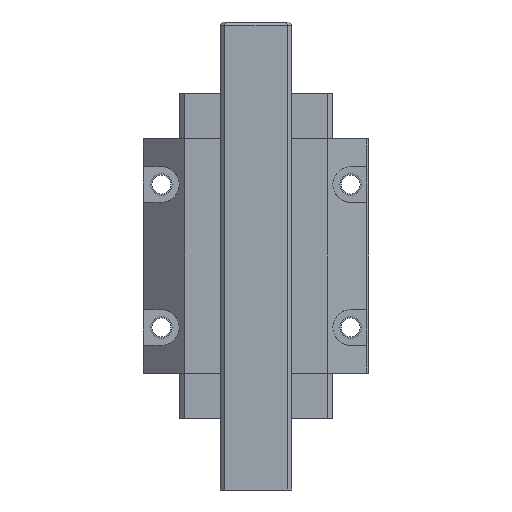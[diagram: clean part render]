
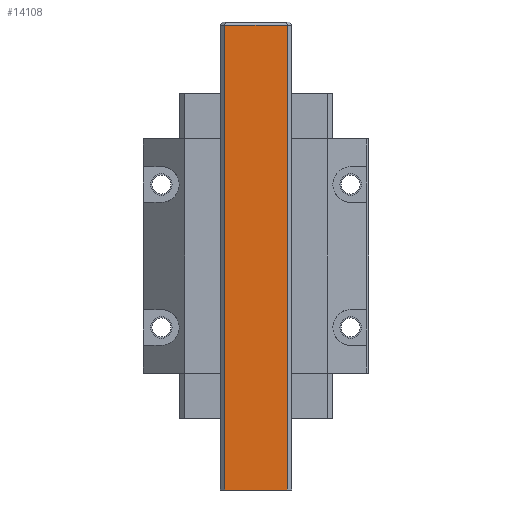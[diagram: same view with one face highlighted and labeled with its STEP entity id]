
A CAD part, front view. The second image highlights one B-rep face of the part: STEP entity #14108.
In plain terms, the highlighted planar face has unit normal (0, -1, 0).
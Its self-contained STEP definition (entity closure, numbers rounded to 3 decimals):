
#13069=DIRECTION('',(1.,0.,0.));
#13070=VECTOR('',#13069,17.6);
#13071=CARTESIAN_POINT('',(-8.8,-12.4,-65.5));
#13072=LINE('',#13071,#13070);
#13342=DIRECTION('',(1.,0.,0.));
#13343=VECTOR('',#13342,17.6);
#13344=CARTESIAN_POINT('',(-8.8,-12.4,64.634));
#13345=LINE('',#13344,#13343);
#13346=DIRECTION('',(0.,0.,1.));
#13347=VECTOR('',#13346,130.134);
#13348=CARTESIAN_POINT('',(-8.8,-12.4,-65.5));
#13349=LINE('',#13348,#13347);
#13354=DIRECTION('',(0.,0.,1.));
#13355=VECTOR('',#13354,130.134);
#13356=CARTESIAN_POINT('',(8.8,-12.4,-65.5));
#13357=LINE('',#13356,#13355);
#13540=CARTESIAN_POINT('',(-8.8,-12.4,-65.5));
#13541=VERTEX_POINT('',#13540);
#13542=CARTESIAN_POINT('',(8.8,-12.4,-65.5));
#13543=VERTEX_POINT('',#13542);
#13604=CARTESIAN_POINT('',(8.8,-12.4,64.634));
#13605=VERTEX_POINT('',#13604);
#13608=CARTESIAN_POINT('',(-8.8,-12.4,64.634));
#13609=VERTEX_POINT('',#13608);
#14096=CARTESIAN_POINT('',(-8.8,-12.4,-65.5));
#14097=DIRECTION('',(0.,-1.,0.));
#14098=DIRECTION('',(1.,0.,0.));
#14099=AXIS2_PLACEMENT_3D('',#14096,#14097,#14098);
#14100=PLANE('',#14099);
#14101=ORIENTED_EDGE('',*,*,#14087,.T.);
#14103=ORIENTED_EDGE('',*,*,#14102,.F.);
#14104=ORIENTED_EDGE('',*,*,#13689,.F.);
#14105=ORIENTED_EDGE('',*,*,#14062,.T.);
#14106=EDGE_LOOP('',(#14101,#14103,#14104,#14105));
#14107=FACE_OUTER_BOUND('',#14106,.F.);
#13689=EDGE_CURVE('',#13541,#13543,#13072,.T.);
#14062=EDGE_CURVE('',#13541,#13609,#13349,.T.);
#14087=EDGE_CURVE('',#13609,#13605,#13345,.T.);
#14102=EDGE_CURVE('',#13543,#13605,#13357,.T.);
#14108=ADVANCED_FACE('',(#14107),#14100,.T.);
